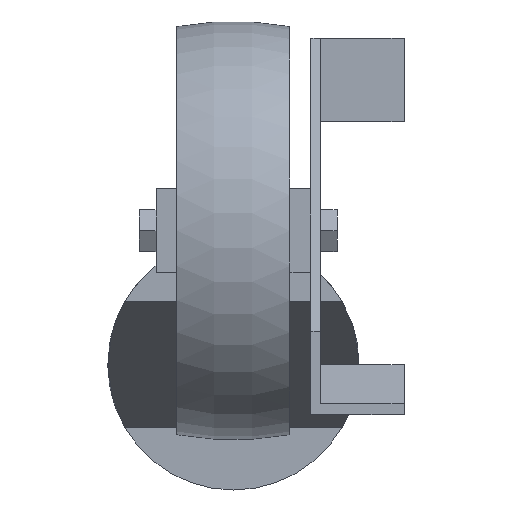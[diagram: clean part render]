
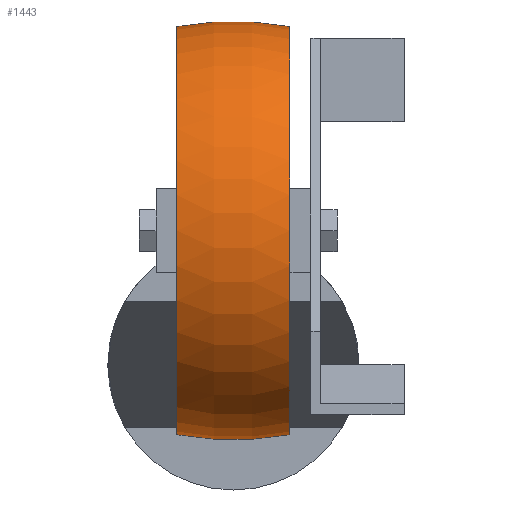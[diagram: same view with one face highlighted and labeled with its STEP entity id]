
A CAD part, front view. The second image highlights one B-rep face of the part: STEP entity #1443.
In plain terms, the highlighted toroidal (fillet/blend) face has major radius 25 mm and minor radius 75 mm.
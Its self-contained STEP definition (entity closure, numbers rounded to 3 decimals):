
#17 = EDGE_CURVE ( 'NONE', #1335, #1727, #483, .T. ) ;
#60 = CARTESIAN_POINT ( 'NONE',  ( 13.5, -78., 32. ) ) ;
#97 = TOROIDAL_SURFACE ( 'NONE', #237, -25., 75. ) ;
#122 = AXIS2_PLACEMENT_3D ( 'NONE', #950, #584, #142 ) ;
#142 = DIRECTION ( 'NONE',  ( 0., 0., 1. ) ) ;
#171 = DIRECTION ( 'NONE',  ( 0., 0., 1. ) ) ;
#218 = ORIENTED_EDGE ( 'NONE', *, *, #1479, .T. ) ;
#234 = CARTESIAN_POINT ( 'NONE',  ( 0., -78., 32. ) ) ;
#237 = AXIS2_PLACEMENT_3D ( 'NONE', #234, #770, #675 ) ;
#265 = CARTESIAN_POINT ( 'NONE',  ( 0., -78., 7. ) ) ;
#271 = DIRECTION ( 'NONE',  ( 0., 0., 1. ) ) ;
#326 = CARTESIAN_POINT ( 'NONE',  ( -13.5, -78., 80.775 ) ) ;
#389 = VERTEX_POINT ( 'NONE', #326 ) ;
#406 = CARTESIAN_POINT ( 'NONE',  ( -13.5, -78., 32. ) ) ;
#423 = EDGE_LOOP ( 'NONE', ( #769, #1396, #218, #1662 ) ) ;
#483 = CIRCLE ( 'NONE', #646, 48.775 ) ;
#515 = CARTESIAN_POINT ( 'NONE',  ( 13.5, -78., 80.775 ) ) ;
#567 = EDGE_CURVE ( 'NONE', #1335, #691, #880, .T. ) ;
#584 = DIRECTION ( 'NONE',  ( 0., 1., 0. ) ) ;
#646 = AXIS2_PLACEMENT_3D ( 'NONE', #60, #1668, #171 ) ;
#655 = FACE_OUTER_BOUND ( 'NONE', #423, .T. ) ;
#675 = DIRECTION ( 'NONE',  ( 0., 0., 1. ) ) ;
#691 = VERTEX_POINT ( 'NONE', #1692 ) ;
#769 = ORIENTED_EDGE ( 'NONE', *, *, #567, .F. ) ;
#770 = DIRECTION ( 'NONE',  ( -1., 0., 0. ) ) ;
#810 = DIRECTION ( 'NONE',  ( 0., 0., -1. ) ) ;
#880 = CIRCLE ( 'NONE', #122, 75. ) ;
#935 = DIRECTION ( 'NONE',  ( -1., 0., 0. ) ) ;
#940 = DIRECTION ( 'NONE',  ( 0., -1., 0. ) ) ;
#950 = CARTESIAN_POINT ( 'NONE',  ( 0., -78., 57. ) ) ;
#1024 = CIRCLE ( 'NONE', #1533, 48.775 ) ;
#1251 = EDGE_CURVE ( 'NONE', #691, #389, #1024, .T. ) ;
#1258 = CARTESIAN_POINT ( 'NONE',  ( 13.5, -78., -16.775 ) ) ;
#1313 = CIRCLE ( 'NONE', #1540, 75. ) ;
#1335 = VERTEX_POINT ( 'NONE', #1258 ) ;
#1396 = ORIENTED_EDGE ( 'NONE', *, *, #17, .T. ) ;
#1443 = ADVANCED_FACE ( 'NONE', ( #655 ), #97, .T. ) ;
#1479 = EDGE_CURVE ( 'NONE', #1727, #389, #1313, .T. ) ;
#1533 = AXIS2_PLACEMENT_3D ( 'NONE', #406, #935, #271 ) ;
#1540 = AXIS2_PLACEMENT_3D ( 'NONE', #265, #940, #810 ) ;
#1662 = ORIENTED_EDGE ( 'NONE', *, *, #1251, .F. ) ;
#1668 = DIRECTION ( 'NONE',  ( -1., 0., 0. ) ) ;
#1692 = CARTESIAN_POINT ( 'NONE',  ( -13.5, -78., -16.775 ) ) ;
#1727 = VERTEX_POINT ( 'NONE', #515 ) ;
